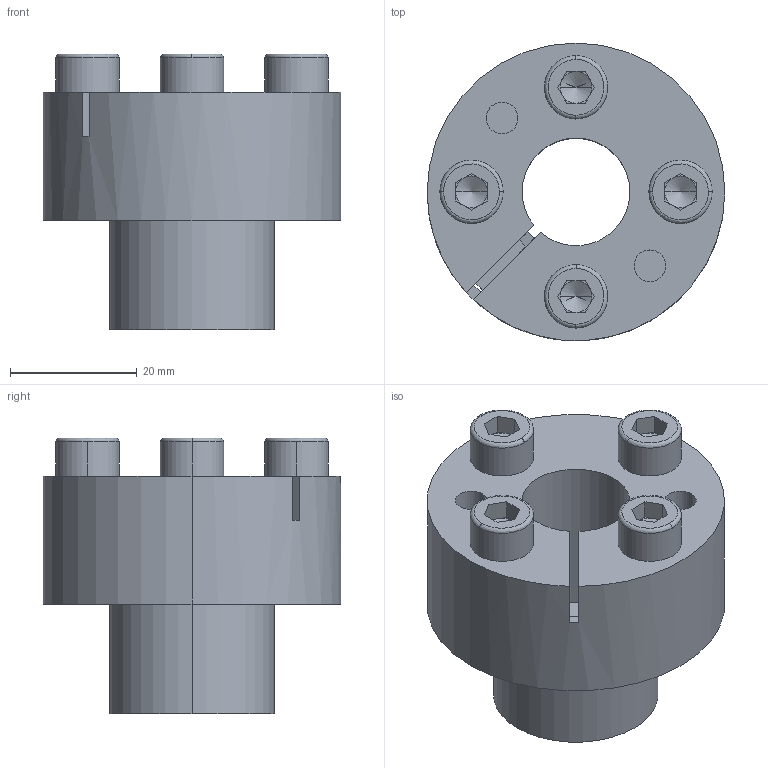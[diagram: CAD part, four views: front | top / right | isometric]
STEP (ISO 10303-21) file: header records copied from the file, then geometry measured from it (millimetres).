
FILE_DESCRIPTION (( 'STEP AP214' ), '1' );
FILE_NAME ('CONEX-B-17x26.STEP', '2020-04-21T15:30:12', ( '' ), ( '' ), 'SwSTEP 2.0', 'SolidWorks 2019', '' );
FILE_SCHEMA (( 'AUTOMOTIVE_DESIGN' ));
Length unit declared in the file: millimetre
Products named in the file (1): CONEX-B-17x26
Bounding box: 47 x 47 x 43.55 mm (x, y, z)
Volume: 30707.8 mm3; surface area: 18905.9 mm2
Topology: 5 solids, 5 shells, 171 faces, 432 edges, 264 vertices
Faces by surface type: plane 72, cylinder 49, bspline 28, cone 22
Entity records: 6506 total; most frequent: CARTESIAN_POINT 2294, DIRECTION 856, ORIENTED_EDGE 848, EDGE_CURVE 424, AXIS2_PLACEMENT_3D 336, VERTEX_POINT 264, EDGE_LOOP 196, CIRCLE 192
